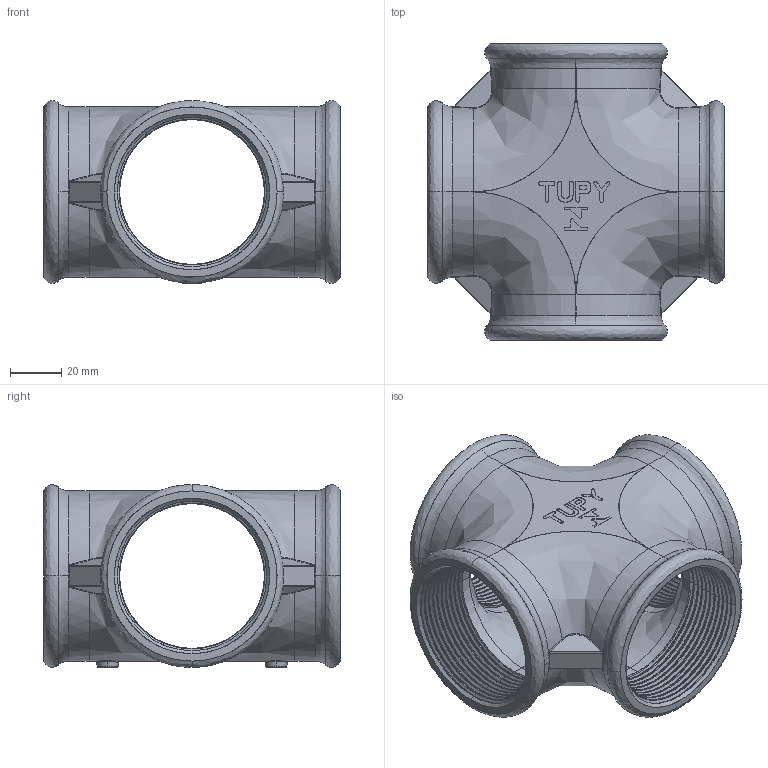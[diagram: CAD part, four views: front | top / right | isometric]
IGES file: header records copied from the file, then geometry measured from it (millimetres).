
Start section: SolidWorks IGES file using analytic representation for surfaces
Global section: file name: C:\Users\Joel Rosa\Desktop\Tubulação\12-18-OK\12-18-010.IGS; native system: SolidWorks 2011; preprocessor: SolidWorks 2011; author: Joel Rosa; date: 121207.003403; units: millimetre
Bounding box: 116 x 116 x 71.59 mm (x, y, z)
Surface area: 76041.6 mm2 (no closed solid volume)
Topology: 0 solids, 0 shells, 715 faces, 5312 edges, 5312 vertices
Faces by surface type: bspline 485, revolution 230
